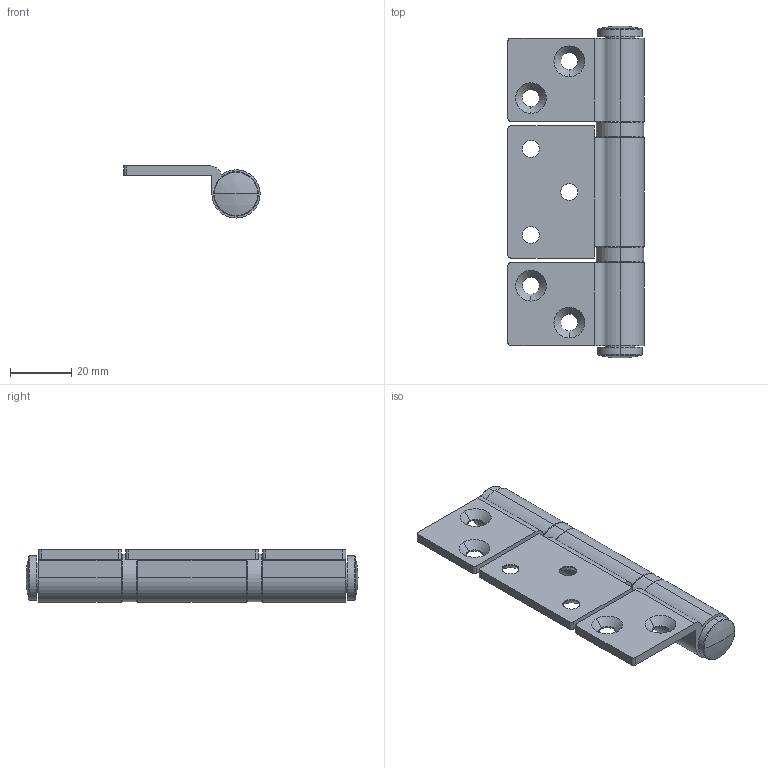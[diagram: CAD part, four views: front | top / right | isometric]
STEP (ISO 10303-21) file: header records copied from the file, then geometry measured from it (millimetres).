
FILE_DESCRIPTION (( 'STEP AP214' ), '1' );
FILE_NAME ('E3 Half Offset Hinge closed.STEP', '2024-06-25T04:21:39', ( '' ), ( '' ), 'SwSTEP 2.0', 'SolidWorks 2023', '' );
FILE_SCHEMA (( 'AUTOMOTIVE_DESIGN' ));
Length unit declared in the file: millimetre
Products named in the file (5): E3 Half Offset Outer Flap B^E3 Half Offset Hinge; E3 Half Offset Hinge closed; E3 Hinge Pin^E3 Half Offset Hinge; E3 Half Offset Middle Flap^E3 Half Offset Hinge; E3 Half Offset Outer Flap A^E3 Half Offset Hinge
Assembly tree (4 placements, depth 2):
  E3 Half Offset Hinge closed
    E3 Hinge Pin^E3 Half Offset Hinge
    E3 Half Offset Outer Flap A^E3 Half Offset Hinge
    E3 Half Offset Outer Flap B^E3 Half Offset Hinge
    E3 Half Offset Middle Flap^E3 Half Offset Hinge
Bounding box: 44.35 x 108 x 16.95 mm (x, y, z)
Volume: 28536.7 mm3; surface area: 18906 mm2
Topology: 4 solids, 4 shells, 113 faces, 287 edges, 188 vertices
Faces by surface type: cylinder 55, plane 28, cone 22, torus 4, sphere 4
Entity records: 3677 total; most frequent: DIRECTION 689, CARTESIAN_POINT 595, ORIENTED_EDGE 574, EDGE_CURVE 287, AXIS2_PLACEMENT_3D 282, VERTEX_POINT 188, CIRCLE 162, EDGE_LOOP 139
